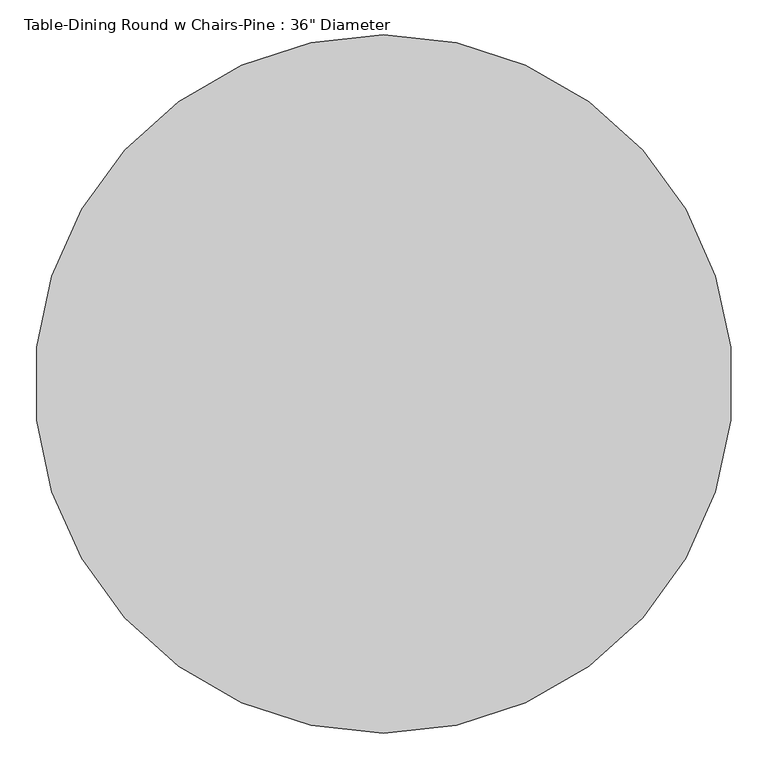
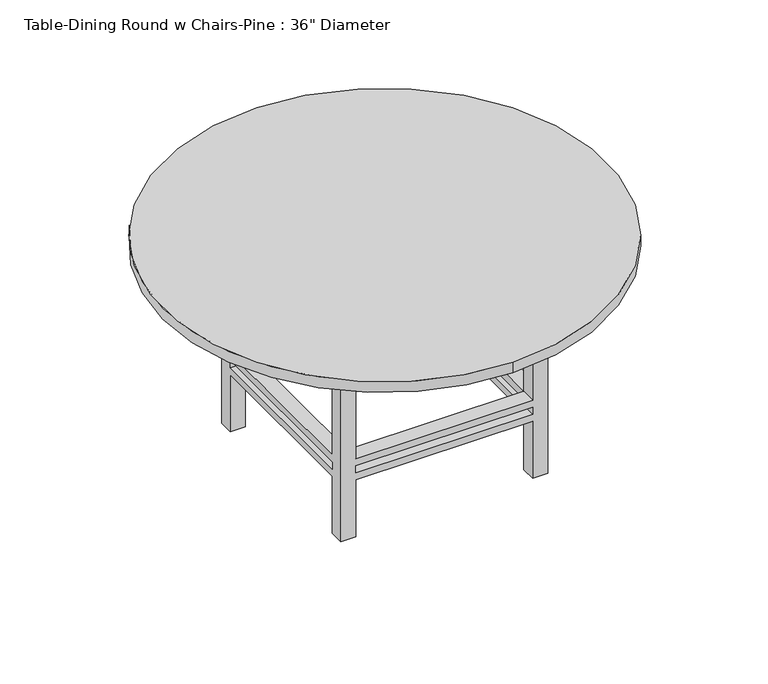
"""IFC4 building model written with IfcOpenShell, lengths in millimetres: furniture geometry."""

from ifc_helpers import new_model, si_unit, point, frame, frame_2d, origin, place, context, project, spatial, polyline, circle_curve, trimmed, segment, composite_curve, outline, extrude, faceted_brep, source, transform, mapped, element, save


def furniture_16fe5483(model_context):
    return source(origin(), model_context, "Body", "SolidModel", [
        faceted_brep([(402.4819672, 113.9213115, 279.4), (402.4819672, -483.6786885, 279.4), (453.2819672, -483.6786885, 279.4), (453.2819672, 113.9213115, 279.4), (-195.1180328, -483.6786885, 279.4), (-195.1180328, -534.4786885, 279.4), (402.4819672, -534.4786885, 279.4), (-195.1180328, 113.9213115, 279.4), (-245.9180328, 113.9213115, 279.4), (-245.9180328, -483.6786885, 279.4), (402.4819672, 164.7213115, 279.4), (-195.1180328, 164.7213115, 279.4), (402.4819672, 113.9213115, 254.0), (-195.1180328, 113.9213115, 254.0), (-195.1180328, 164.7213115, 254.0), (402.4819672, 164.7213115, 254.0), (-195.1180328, -483.6786885, 254.0), (-245.9180328, -483.6786885, 254.0), (-245.9180328, 113.9213115, 254.0), (402.4819672, -483.6786885, 254.0), (402.4819672, -534.4786885, 254.0), (-195.1180328, -534.4786885, 254.0), (453.2819672, 113.9213115, 254.0), (453.2819672, -483.6786885, 254.0), (-245.9180328, 164.7213115, 647.7), (-195.1180328, 164.7213115, 647.7), (402.4819672, 164.7213115, 647.7), (453.2819672, 164.7213115, 647.7), (453.2819672, 164.7213115, 0.0), (402.4819672, 164.7213115, 0.0), (402.4819672, 164.7213115, 203.2), (-195.1180328, 164.7213115, 203.2), (-195.1180328, 164.7213115, 0.0), (-245.9180328, 164.7213115, 0.0), (-195.1180328, 164.7213115, 228.6), (402.4819672, 164.7213115, 228.6), (-245.9180328, 113.9213115, 647.7), (-245.9180328, 113.9213115, 0.0), (-245.9180328, 113.9213115, 203.2), (-245.9180328, -483.6786885, 203.2), (-245.9180328, -483.6786885, 0.0), (-245.9180328, -534.4786885, 0.0), (-245.9180328, -534.4786885, 647.7), (-245.9180328, -483.6786885, 647.7), (-245.9180328, -483.6786885, 228.6), (-245.9180328, 113.9213115, 228.6), (453.2819672, -534.4786885, 647.7), (402.4819672, -534.4786885, 647.7), (-195.1180328, -534.4786885, 647.7), (-195.1180328, -534.4786885, 0.0), (-195.1180328, -534.4786885, 203.2), (402.4819672, -534.4786885, 203.2), (402.4819672, -534.4786885, 0.0), (453.2819672, -534.4786885, 0.0), (402.4819672, -534.4786885, 228.6), (-195.1180328, -534.4786885, 228.6), (453.2819672, 113.9213115, 647.7), (453.2819672, -483.6786885, 647.7), (453.2819672, -483.6786885, 0.0), (453.2819672, -483.6786885, 203.2), (453.2819672, 113.9213115, 203.2), (453.2819672, 113.9213115, 0.0), (453.2819672, 113.9213115, 228.6), (453.2819672, -483.6786885, 228.6), (-195.1180328, 113.9213115, 647.7), (402.4819672, 113.9213115, 647.7), (402.4819672, -483.6786885, 647.7), (-195.1180328, -483.6786885, 647.7), (-195.1180328, 113.9213115, 0.0), (402.4819672, 113.9213115, 0.0), (402.4819672, -483.6786885, 0.0), (-195.1180328, -483.6786885, 0.0), (-195.1180328, 113.9213115, 203.2), (-195.1180328, 113.9213115, 228.6), (402.4819672, 113.9213115, 203.2), (402.4819672, 113.9213115, 228.6), (402.4819672, -483.6786885, 203.2), (402.4819672, -483.6786885, 228.6), (-195.1180328, -483.6786885, 203.2), (-195.1180328, -483.6786885, 228.6)], [[[0, 1, 2, 3]], [[1, 4, 5, 6]], [[4, 7, 8, 9]], [[7, 0, 10, 11]], [[12, 13, 14, 15]], [[13, 16, 17, 18]], [[16, 19, 20, 21]], [[19, 12, 22, 23]], [[24, 25, 11, 10, 26, 27, 28, 29, 30, 31, 32, 33], [14, 34, 35, 15]], [[36, 24, 33, 37, 38, 39, 40, 41, 42, 43, 9, 8], [17, 44, 45, 18]], [[46, 47, 6, 5, 48, 42, 41, 49, 50, 51, 52, 53], [20, 54, 55, 21]], [[28, 27, 56, 3, 2, 57, 46, 53, 58, 59, 60, 61], [22, 62, 63, 23]], [[1, 0, 12, 19]], [[4, 1, 19, 16]], [[7, 4, 16, 13]], [[0, 7, 13, 12]], [[25, 24, 36, 64]], [[26, 65, 56, 27]], [[47, 46, 57, 66]], [[48, 67, 43, 42]], [[32, 68, 37, 33]], [[29, 28, 61, 69]], [[52, 70, 58, 53]], [[49, 41, 40, 71]], [[64, 36, 8, 7]], [[37, 68, 72, 38]], [[13, 18, 45, 73]], [[25, 64, 7, 11]], [[68, 32, 31, 72]], [[14, 13, 73, 34]], [[65, 26, 10, 0]], [[29, 69, 74, 30]], [[12, 15, 35, 75]], [[56, 65, 0, 3]], [[69, 61, 60, 74]], [[22, 12, 75, 62]], [[66, 57, 2, 1]], [[58, 70, 76, 59]], [[19, 23, 63, 77]], [[47, 66, 1, 6]], [[70, 52, 51, 76]], [[20, 19, 77, 54]], [[67, 48, 5, 4]], [[49, 71, 78, 50]], [[16, 21, 55, 79]], [[43, 67, 4, 9]], [[71, 40, 39, 78]], [[17, 16, 79, 44]], [[75, 77, 63, 62]], [[77, 79, 55, 54]], [[79, 73, 45, 44]], [[73, 75, 35, 34]], [[74, 72, 31, 30]], [[72, 78, 39, 38]], [[78, 76, 51, 50]], [[76, 74, 60, 59]], [[77, 75, 74, 76]], [[79, 77, 76, 78]], [[73, 79, 78, 72]], [[75, 73, 72, 74]]]),
        extrude(outline(polyline([(478.6819672, 190.1213115), (478.6819672, -559.8786885), (-271.3180328, -559.8786885), (-271.3180328, 190.1213115), (478.6819672, 190.1213115)]), holes=[polyline([(453.2819672, 164.7213115), (-245.9180328, 164.7213115), (-245.9180328, -534.4786885), (453.2819672, -534.4786885), (453.2819672, 164.7213115)])]), frame((0.0, 0.0, 647.7), z_axis=(0.0, 0.0, 1.0), x_axis=(1.0, 0.0, 0.0)), (0.0, 0.0, 1.0), 76.2),
        extrude(outline(composite_curve([segment(trimmed(circle_curve(frame_2d((103.6819672, -184.8786885)), 750.0), [point((103.6819672, -934.8786885))], [point((103.6819672, 565.1213115))], False, "CARTESIAN"), True, "CONTINUOUS"), segment(trimmed(circle_curve(frame_2d((103.6819672, -184.8786885)), 750.0), [point((103.6819672, 565.1213115))], [point((103.6819672, -934.8786885))], False, "CARTESIAN"), True, "CONTINUOUS")], self_intersect=False)), frame((0.0, 0.0, 723.9), z_axis=(0.0, 0.0, 1.0), x_axis=(1.0, 0.0, 0.0)), (0.0, 0.0, 1.0), 38.1),
    ])


if __name__ == "__main__":
    model = new_model("IFC4")
    model_context = context("Model", 3, world=origin())
    ifc_project = project(units=[si_unit("LENGTHUNIT", "METRE", prefix="MILLI")], contexts=[model_context])
    site = spatial("IfcSite", under=ifc_project)
    building = spatial("IfcBuilding", under=site)
    placement = place(None, origin())
    furniture_shape = furniture_16fe5483(model_context)
    element("IfcFurniture", 1, ObjectType="Table-Dining Round w Chairs-Pine : 36\" Diameter", at=placement, inside=building, context=model_context, shape_type="MappedRepresentation", body=[
        mapped(furniture_shape, transform((0.0, 0.0, 0.0), x_axis=(1.0, 0.0, 0.0), y_axis=(0.0, 1.0, 0.0), z_axis=(0.0, 0.0, 1.0))),
    ])
    save(model, "model.ifc")
